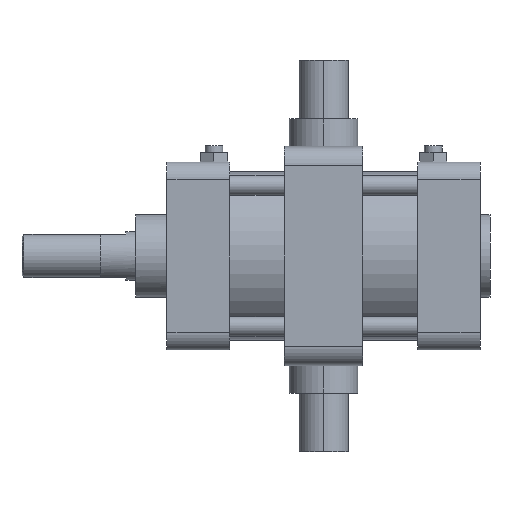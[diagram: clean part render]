
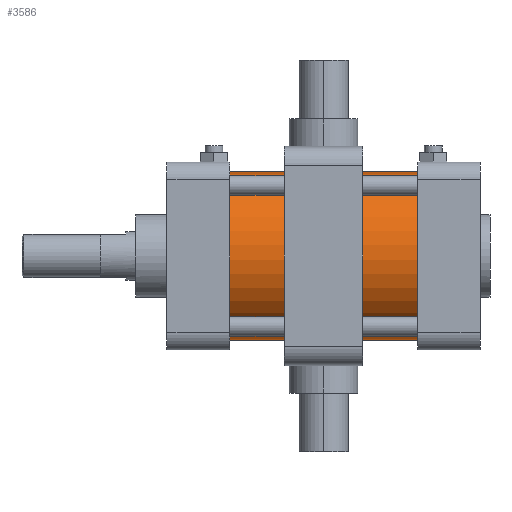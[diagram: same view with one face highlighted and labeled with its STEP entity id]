
A CAD part, front view. The second image highlights one B-rep face of the part: STEP entity #3586.
In plain terms, the highlighted cylindrical face has radius 43 mm (diameter 86 mm), a partial arc.
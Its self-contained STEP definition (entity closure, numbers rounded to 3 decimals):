
#87 = EDGE_CURVE ( 'NONE', #760, #6532, #843, .T. ) ;
#434 = CARTESIAN_POINT ( 'NONE',  ( -29.1, 0., -43. ) ) ;
#451 = DIRECTION ( 'NONE',  ( -1., 0., 0. ) ) ;
#760 = VERTEX_POINT ( 'NONE', #7337 ) ;
#843 = CIRCLE ( 'NONE', #1225, 43. ) ;
#1099 = EDGE_CURVE ( 'NONE', #6862, #7833, #6436, .T. ) ;
#1225 = AXIS2_PLACEMENT_3D ( 'NONE', #8268, #7332, #2961 ) ;
#1482 = DIRECTION ( 'NONE',  ( 0., 0., 1. ) ) ;
#1911 = CARTESIAN_POINT ( 'NONE',  ( -48., 0., 43. ) ) ;
#2012 = CYLINDRICAL_SURFACE ( 'NONE', #7328, 43. ) ;
#2184 = CARTESIAN_POINT ( 'NONE',  ( 48., 0., 43. ) ) ;
#2634 = CARTESIAN_POINT ( 'NONE',  ( -48., 0., -43. ) ) ;
#2669 = CARTESIAN_POINT ( 'NONE',  ( -29.1, 0., 43. ) ) ;
#2782 = DIRECTION ( 'NONE',  ( -1., 0., 0. ) ) ;
#2961 = DIRECTION ( 'NONE',  ( 0., 0., 1. ) ) ;
#2989 = ORIENTED_EDGE ( 'NONE', *, *, #8468, .F. ) ;
#3272 = DIRECTION ( 'NONE',  ( -1., 0., 0. ) ) ;
#3414 = ORIENTED_EDGE ( 'NONE', *, *, #7049, .T. ) ;
#3586 = ADVANCED_FACE ( 'NONE', ( #7451 ), #2012, .T. ) ;
#3600 = VECTOR ( 'NONE', #451, 1000. ) ;
#4624 = CARTESIAN_POINT ( 'NONE',  ( -29.1, 0., 0. ) ) ;
#5345 = CARTESIAN_POINT ( 'NONE',  ( -48., 0., 0. ) ) ;
#5568 = EDGE_LOOP ( 'NONE', ( #2989, #7296, #3414, #6655 ) ) ;
#6436 = CIRCLE ( 'NONE', #6600, 43. ) ;
#6532 = VERTEX_POINT ( 'NONE', #2184 ) ;
#6600 = AXIS2_PLACEMENT_3D ( 'NONE', #5345, #3272, #1482 ) ;
#6624 = DIRECTION ( 'NONE',  ( 0., 0., 1. ) ) ;
#6655 = ORIENTED_EDGE ( 'NONE', *, *, #1099, .F. ) ;
#6862 = VERTEX_POINT ( 'NONE', #2634 ) ;
#6916 = DIRECTION ( 'NONE',  ( -1., 0., 0. ) ) ;
#7049 = EDGE_CURVE ( 'NONE', #6532, #7833, #7962, .T. ) ;
#7296 = ORIENTED_EDGE ( 'NONE', *, *, #87, .T. ) ;
#7328 = AXIS2_PLACEMENT_3D ( 'NONE', #4624, #6916, #6624 ) ;
#7332 = DIRECTION ( 'NONE',  ( -1., 0., 0. ) ) ;
#7337 = CARTESIAN_POINT ( 'NONE',  ( 48., 0., -43. ) ) ;
#7451 = FACE_OUTER_BOUND ( 'NONE', #5568, .T. ) ;
#7569 = VECTOR ( 'NONE', #2782, 1000. ) ;
#7659 = LINE ( 'NONE', #434, #7569 ) ;
#7833 = VERTEX_POINT ( 'NONE', #1911 ) ;
#7962 = LINE ( 'NONE', #2669, #3600 ) ;
#8268 = CARTESIAN_POINT ( 'NONE',  ( 48., 0., 0. ) ) ;
#8468 = EDGE_CURVE ( 'NONE', #760, #6862, #7659, .T. ) ;
